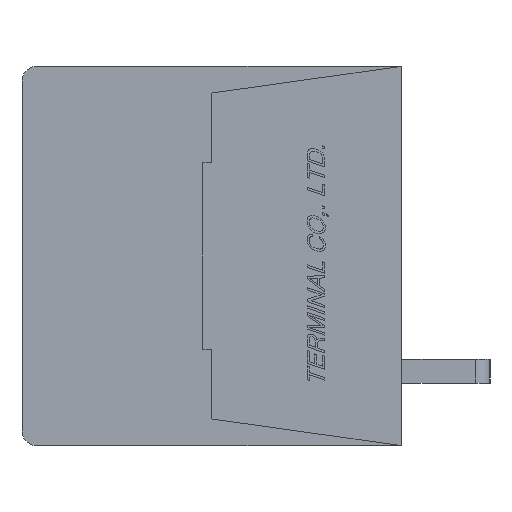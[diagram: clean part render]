
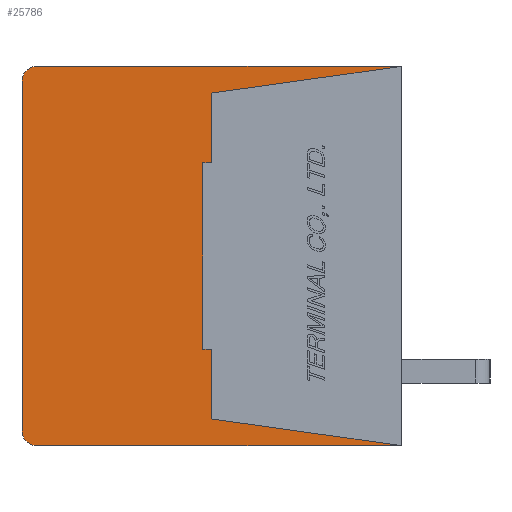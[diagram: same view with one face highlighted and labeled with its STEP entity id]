
A CAD part, left-side view. The second image highlights one B-rep face of the part: STEP entity #25786.
In plain terms, the highlighted planar face has unit normal (-1, 0, 0).
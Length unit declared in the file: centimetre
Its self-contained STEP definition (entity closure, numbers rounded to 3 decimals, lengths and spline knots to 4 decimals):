
#1338=CIRCLE('',#44087,0.05);
#1339=CIRCLE('',#44090,0.05);
#2332=VERTEX_POINT('',#35971);
#2333=VERTEX_POINT('',#35973);
#2334=VERTEX_POINT('',#35977);
#2335=VERTEX_POINT('',#35981);
#2336=VERTEX_POINT('',#35985);
#2337=VERTEX_POINT('',#35989);
#2338=VERTEX_POINT('',#35993);
#2339=VERTEX_POINT('',#35995);
#2340=VERTEX_POINT('',#35997);
#2341=VERTEX_POINT('',#35999);
#2342=VERTEX_POINT('',#36001);
#2343=VERTEX_POINT('',#36003);
#5072=VECTOR('',#29860,1.);
#5076=VECTOR('',#29869,1.);
#5079=VECTOR('',#29877,1.);
#5080=VECTOR('',#29879,1.);
#5081=VECTOR('',#29880,1.);
#5082=VECTOR('',#29881,1.);
#5083=VECTOR('',#29882,1.);
#5084=VECTOR('',#29883,1.);
#5085=VECTOR('',#29884,1.);
#5086=VECTOR('',#29885,1.);
#8110=LINE('',#35972,#5072);
#8114=LINE('',#35982,#5076);
#8117=LINE('',#35990,#5079);
#8118=LINE('',#35992,#5080);
#8119=LINE('',#35994,#5081);
#8120=LINE('',#35996,#5082);
#8121=LINE('',#35998,#5083);
#8122=LINE('',#36000,#5084);
#8123=LINE('',#36002,#5085);
#8124=LINE('',#36004,#5086);
#11492=EDGE_CURVE('',#2333,#2332,#8110,.T.);
#11495=EDGE_CURVE('',#2334,#2332,#1338,.T.);
#11497=EDGE_CURVE('',#2334,#2335,#8114,.T.);
#11499=EDGE_CURVE('',#2336,#2335,#1339,.T.);
#11501=EDGE_CURVE('',#2336,#2337,#8117,.T.);
#11502=EDGE_CURVE('',#2338,#2333,#8118,.T.);
#11503=EDGE_CURVE('',#2337,#2339,#8119,.T.);
#11504=EDGE_CURVE('',#2339,#2340,#8120,.T.);
#11505=EDGE_CURVE('',#2340,#2341,#8121,.T.);
#11506=EDGE_CURVE('',#2341,#2342,#8122,.T.);
#11507=EDGE_CURVE('',#2342,#2343,#8123,.T.);
#11508=EDGE_CURVE('',#2343,#2338,#8124,.T.);
#16763=ORIENTED_EDGE('',*,*,#11502,.T.);
#16764=ORIENTED_EDGE('',*,*,#11492,.T.);
#16765=ORIENTED_EDGE('',*,*,#11495,.F.);
#16766=ORIENTED_EDGE('',*,*,#11497,.T.);
#16767=ORIENTED_EDGE('',*,*,#11499,.F.);
#16768=ORIENTED_EDGE('',*,*,#11501,.T.);
#16769=ORIENTED_EDGE('',*,*,#11503,.T.);
#16770=ORIENTED_EDGE('',*,*,#11504,.T.);
#16771=ORIENTED_EDGE('',*,*,#11505,.T.);
#16772=ORIENTED_EDGE('',*,*,#11506,.T.);
#16773=ORIENTED_EDGE('',*,*,#11507,.T.);
#16774=ORIENTED_EDGE('',*,*,#11508,.T.);
#22464=EDGE_LOOP('',(#16763,#16764,#16765,#16766,#16767,#16768,#16769,#16770,
#16771,#16772,#16773,#16774));
#24162=FACE_BOUND('',#22464,.T.);
#25786=ADVANCED_FACE('',(#24162),#27182,.F.);
#27182=PLANE('',#44092);
#29860=DIRECTION('',(0.,1.,0.));
#29865=DIRECTION('',(1.,0.,0.));
#29866=DIRECTION('',(0.,0.,-0.05));
#29869=DIRECTION('',(0.,0.,-1.));
#29873=DIRECTION('',(1.,0.,0.));
#29874=DIRECTION('',(0.,0.,-0.05));
#29877=DIRECTION('',(0.,-1.,0.));
#29878=DIRECTION('',(1.,0.,0.));
#29879=DIRECTION('',(0.,-0.99,0.139));
#29880=DIRECTION('',(0.,0.99,0.139));
#29881=DIRECTION('',(0.,0.,1.));
#29882=DIRECTION('',(0.,1.,0.));
#29883=DIRECTION('',(0.,0.,1.));
#29884=DIRECTION('',(0.,-1.,0.));
#29885=DIRECTION('',(0.,0.,1.));
#35971=CARTESIAN_POINT('',(-0.889,1.23,0.64));
#35972=CARTESIAN_POINT('',(-0.889,0.,0.64));
#35973=CARTESIAN_POINT('',(-0.889,0.,0.64));
#35977=CARTESIAN_POINT('',(-0.889,1.28,0.59));
#35978=CARTESIAN_POINT('',(-0.889,1.23,0.59));
#35981=CARTESIAN_POINT('',(-0.889,1.28,-0.59));
#35982=CARTESIAN_POINT('',(-0.889,1.28,0.59));
#35985=CARTESIAN_POINT('',(-0.889,1.23,-0.64));
#35986=CARTESIAN_POINT('',(-0.889,1.23,-0.59));
#35989=CARTESIAN_POINT('',(-0.889,0.,-0.64));
#35990=CARTESIAN_POINT('',(-0.889,1.23,-0.64));
#35991=CARTESIAN_POINT('',(-0.889,0.6345,0.));
#35992=CARTESIAN_POINT('',(-0.889,0.64,0.55));
#35993=CARTESIAN_POINT('',(-0.889,0.64,0.55));
#35994=CARTESIAN_POINT('',(-0.889,0.,-0.64));
#35995=CARTESIAN_POINT('',(-0.889,0.64,-0.55));
#35996=CARTESIAN_POINT('',(-0.889,0.64,-0.55));
#35997=CARTESIAN_POINT('',(-0.889,0.64,-0.315));
#35998=CARTESIAN_POINT('',(-0.889,0.64,-0.315));
#35999=CARTESIAN_POINT('',(-0.889,0.67,-0.315));
#36000=CARTESIAN_POINT('',(-0.889,0.67,-0.315));
#36001=CARTESIAN_POINT('',(-0.889,0.67,0.315));
#36002=CARTESIAN_POINT('',(-0.889,0.67,0.315));
#36003=CARTESIAN_POINT('',(-0.889,0.64,0.315));
#36004=CARTESIAN_POINT('',(-0.889,0.64,0.315));
#44087=AXIS2_PLACEMENT_3D('',#35978,#29865,#29866);
#44090=AXIS2_PLACEMENT_3D('',#35986,#29873,#29874);
#44092=AXIS2_PLACEMENT_3D('',#35991,#29878,$);
